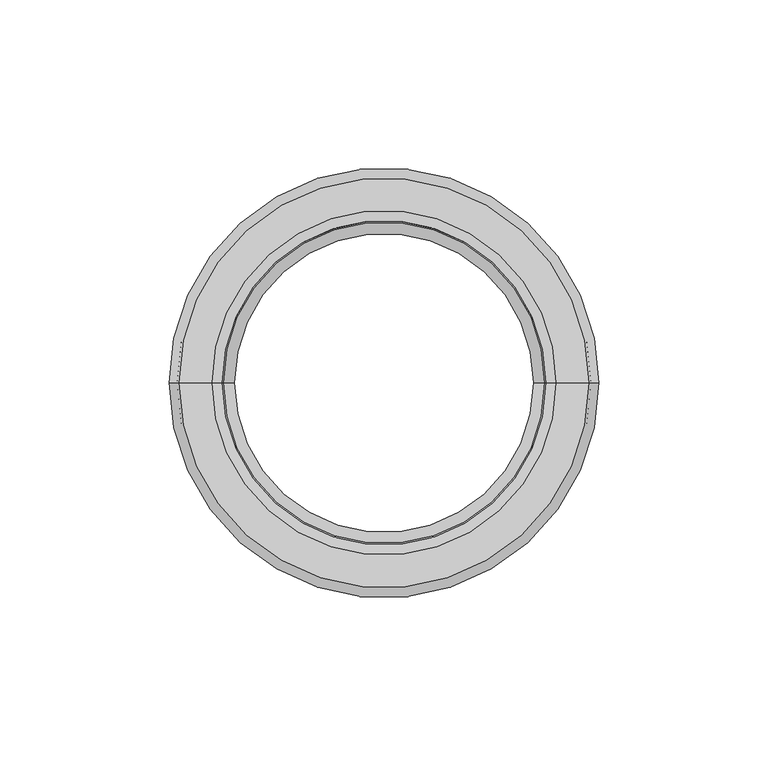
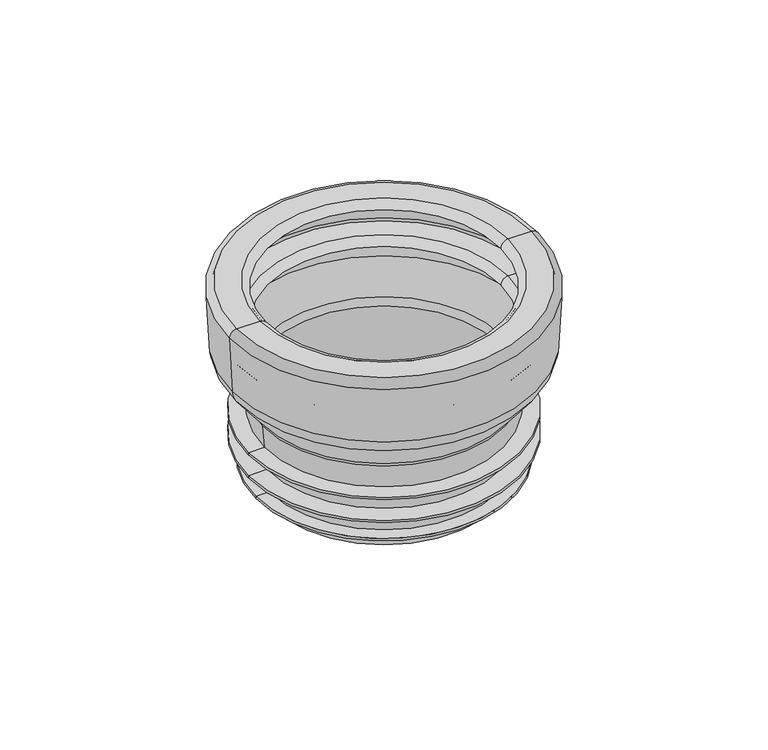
"""IFC4 building model written with IfcOpenShell, lengths in millimetres: sanitary terminal geometry, RSen_52_PIF_UN_closet connector no.6_wisa : closet connector_wisa_no 6 white."""

from ifc_helpers import new_model, si_unit, point, frame, origin, place, context, project, spatial, polyline, circle_curve, ellipse_curve, trimmed, source, transform, mapped, element, save
from ifc_brep_helpers import plane_surface, cylinder_surface, revolved_surface, advanced_brep


def sanitary_terminal_7cce1eda(model_context):
    return source(origin(), model_context, "Body", "AdvancedBrep", [
        advanced_brep(
        [(-51.0, 0.0, 3.0), (51.0, 0.0, 3.0), (60.5886596, 0.0, 3.0), (-60.5886596, 0.0, 3.0), (-48.0, 0.0, 0.0), (48.0, 0.0, 0.0), (-48.9352697, 0.0, 0.0), (48.9352697, 0.0, 0.0), (-51.6046098, 0.0, 2.5331091), (51.6046098, 0.0, 2.5331091), (-59.6978133, 0.0, 2.1089623), (59.6978133, 0.0, 2.1089623), (-61.1172537, 0.0, 0.5325141), (61.1172537, 0.0, 0.5325141), (-60.4477766, 0.0, -12.2418688), (60.4477766, 0.0, -12.2418688), (-59.648873, 0.0, -13.0), (59.648873, 0.0, -13.0), (-51.0, 0.0, -13.0), (51.0, 0.0, -13.0), (-48.0, 0.0, -16.0), (48.0, 0.0, -16.0), (-48.9352697, 0.0, -16.0), (48.9352697, 0.0, -16.0), (-51.6046098, 0.0, -13.4668909), (51.6046098, 0.0, -13.4668909), (-58.1686646, 0.0, -13.8108984), (58.1686646, 0.0, -13.8108984), (-59.582306, 0.0, -15.3809063), (59.582306, 0.0, -15.3809063), (-59.1542114, 0.0, -23.5494383), (59.1542114, 0.0, -23.5494383), (-57.8904987, 0.0, -26.9293915), (57.8904987, 0.0, -26.9293915), (-48.8563405, 0.0, -38.4925866), (48.8563405, 0.0, -38.4925866), (-47.6130407, 0.0, -41.601058), (47.6130407, 0.0, -41.601058), (-44.25, 0.0, -75.9), (44.25, 0.0, -75.9), (-44.25, 0.0, -79.5), (44.25, 0.0, -79.5), (-46.5, 0.0, -79.5), (46.5, 0.0, -79.5), (-47.0883051, 0.0, -73.5), (47.0883051, 0.0, -73.5), (-52.75, 0.0, -73.5), (52.75, 0.0, -73.5), (-52.75, 0.0, -72.5), (52.75, 0.0, -72.5), (-47.186356, 0.0, -72.5), (47.186356, 0.0, -72.5), (-48.0688137, 0.0, -63.5), (48.0688137, 0.0, -63.5), (-55.75, 0.0, -63.5), (55.75, 0.0, -63.5), (-55.75, 0.0, -62.5), (55.75, 0.0, -62.5), (-48.1668646, 0.0, -62.5), (48.1668646, 0.0, -62.5), (-49.0493223, 0.0, -53.5), (49.0493223, 0.0, -53.5), (-55.75, 0.0, -53.5), (55.75, 0.0, -53.5), (-55.75, 0.0, -52.5), (55.75, 0.0, -52.5), (-49.1473731, 0.0, -52.5), (49.1473731, 0.0, -52.5), (-50.0918558, 0.0, -42.8674209), (50.0918558, 0.0, -42.8674209), (-50.7135057, 0.0, -41.3131851), (50.7135057, 0.0, -41.3131851), (-60.4473369, 0.0, -28.8544494), (60.4473369, 0.0, -28.8544494), (-62.3468333, 0.0, -23.7740155), (62.3468333, 0.0, -23.7740155), (-63.5845482, 0.0, -0.1570079), (63.5845482, 0.0, -0.1570079)],
        [
            (0, 1, circle_curve(frame((0.0, 0.0, 3.0), z_axis=(0.0, 0.0, -1.0), x_axis=(1.0, 0.0, 0.0)), 51.0)),
            (1, 2),
            (2, 3, circle_curve(frame((0.0, 0.0, 3.0), z_axis=(0.0, 0.0, 1.0), x_axis=(1.0, 0.0, 0.0)), 60.5886596)),
            (3, 0),
            (1, 0, circle_curve(frame((0.0, 0.0, 3.0), z_axis=(0.0, 0.0, -1.0), x_axis=(1.0, 0.0, 0.0)), 51.0)),
            (3, 2, circle_curve(frame((0.0, 0.0, 3.0), z_axis=(0.0, 0.0, 1.0), x_axis=(1.0, 0.0, 0.0)), 60.5886596)),
            (4, 5, circle_curve(frame((0.0, 0.0, 0.0), z_axis=(0.0, 0.0, -1.0), x_axis=(1.0, 0.0, 0.0)), 48.0)),
            (5, 1, circle_curve(frame((51.0, 0.0, 0.0), z_axis=(0.0, 1.0, 0.0), x_axis=(1.0, 0.0, 0.0)), 3.0)),
            (0, 4, circle_curve(frame((-51.0, 0.0, 0.0), z_axis=(0.0, 1.0, 0.0), x_axis=(-1.0, 0.0, 0.0)), 3.0)),
            (5, 4, circle_curve(frame((0.0, 0.0, 0.0), z_axis=(0.0, 0.0, -1.0), x_axis=(1.0, 0.0, 0.0)), 48.0)),
            (6, 7, circle_curve(frame((0.0, 0.0, 0.0), z_axis=(0.0, 0.0, -1.0), x_axis=(1.0, 0.0, 0.0)), 48.9352697)),
            (7, 5),
            (4, 6),
            (7, 6, circle_curve(frame((0.0, 0.0, 0.0), z_axis=(0.0, 0.0, -1.0), x_axis=(1.0, 0.0, 0.0)), 48.9352697)),
            (8, 9, circle_curve(frame((0.0, 0.0, 2.5331091), z_axis=(0.0, 0.0, -1.0), x_axis=(1.0, 0.0, 0.0)), 51.6046098)),
            (9, 7, circle_curve(frame((51.4718551, 0.0, 0.0), z_axis=(0.0, -1.0, 0.0), x_axis=(1.0, 0.0, 0.0)), 2.5365854)),
            (6, 8, circle_curve(frame((-51.4718551, 0.0, 0.0), z_axis=(0.0, -1.0, 0.0), x_axis=(-1.0, 0.0, 0.0)), 2.5365854)),
            (9, 8, circle_curve(frame((0.0, 0.0, 2.5331091), z_axis=(0.0, 0.0, -1.0), x_axis=(1.0, 0.0, 0.0)), 51.6046098)),
            (10, 11, circle_curve(frame((0.0, 0.0, 2.1089623), z_axis=(0.0, 0.0, -1.0), x_axis=(1.0, 0.0, 0.0)), 59.6978133)),
            (11, 9),
            (8, 10),
            (11, 10, circle_curve(frame((0.0, 0.0, 2.1089623), z_axis=(0.0, 0.0, -1.0), x_axis=(1.0, 0.0, 0.0)), 59.6978133)),
            (12, 13, circle_curve(frame((0.0, 0.0, 0.5325141), z_axis=(0.0, 0.0, -1.0), x_axis=(1.0, 0.0, 0.0)), 61.1172537)),
            (13, 11, circle_curve(frame((59.6193094, 0.0, 0.611018), z_axis=(0.0, -1.0, 0.0), x_axis=(1.0, 0.0, 0.0)), 1.5)),
            (10, 12, circle_curve(frame((-59.6193094, 0.0, 0.611018), z_axis=(0.0, -1.0, 0.0), x_axis=(-1.0, 0.0, 0.0)), 1.5)),
            (13, 12, circle_curve(frame((0.0, 0.0, 0.5325141), z_axis=(0.0, 0.0, -1.0), x_axis=(1.0, 0.0, 0.0)), 61.1172537)),
            (14, 15, circle_curve(frame((0.0, 0.0, -12.2418688), z_axis=(0.0, 0.0, -1.0), x_axis=(1.0, 0.0, 0.0)), 60.4477766)),
            (15, 13),
            (12, 14),
            (15, 14, circle_curve(frame((0.0, 0.0, -12.2418688), z_axis=(0.0, 0.0, -1.0), x_axis=(1.0, 0.0, 0.0)), 60.4477766)),
            (16, 17, circle_curve(frame((0.0, 0.0, -13.0), z_axis=(0.0, 0.0, -1.0), x_axis=(1.0, 0.0, 0.0)), 59.648873)),
            (17, 15, circle_curve(frame((59.648873, 0.0, -12.2), z_axis=(0.0, -1.0, 0.0), x_axis=(1.0, 0.0, 0.0)), 0.8)),
            (14, 16, circle_curve(frame((-59.648873, 0.0, -12.2), z_axis=(0.0, -1.0, 0.0), x_axis=(-1.0, 0.0, 0.0)), 0.8)),
            (17, 16, circle_curve(frame((0.0, 0.0, -13.0), z_axis=(0.0, 0.0, -1.0), x_axis=(1.0, 0.0, 0.0)), 59.648873)),
            (18, 19, circle_curve(frame((0.0, 0.0, -13.0), z_axis=(0.0, 0.0, -1.0), x_axis=(1.0, 0.0, 0.0)), 51.0)),
            (19, 17),
            (16, 18),
            (19, 18, circle_curve(frame((0.0, 0.0, -13.0), z_axis=(0.0, 0.0, -1.0), x_axis=(1.0, 0.0, 0.0)), 51.0)),
            (20, 21, circle_curve(frame((0.0, 0.0, -16.0), z_axis=(0.0, 0.0, -1.0), x_axis=(1.0, 0.0, 0.0)), 48.0)),
            (21, 19, circle_curve(frame((51.0, 0.0, -16.0), z_axis=(0.0, 1.0, 0.0), x_axis=(1.0, 0.0, 0.0)), 3.0)),
            (18, 20, circle_curve(frame((-51.0, 0.0, -16.0), z_axis=(0.0, 1.0, 0.0), x_axis=(-1.0, 0.0, 0.0)), 3.0)),
            (21, 20, circle_curve(frame((0.0, 0.0, -16.0), z_axis=(0.0, 0.0, -1.0), x_axis=(1.0, 0.0, 0.0)), 48.0)),
            (22, 23, circle_curve(frame((0.0, 0.0, -16.0), z_axis=(0.0, 0.0, -1.0), x_axis=(1.0, 0.0, 0.0)), 48.9352697)),
            (23, 21),
            (20, 22),
            (23, 22, circle_curve(frame((0.0, 0.0, -16.0), z_axis=(0.0, 0.0, -1.0), x_axis=(1.0, 0.0, 0.0)), 48.9352697)),
            (24, 25, circle_curve(frame((0.0, 0.0, -13.4668909), z_axis=(0.0, 0.0, -1.0), x_axis=(1.0, 0.0, 0.0)), 51.6046098)),
            (25, 23, circle_curve(frame((51.4718551, 0.0, -16.0), z_axis=(0.0, -1.0, 0.0), x_axis=(1.0, 0.0, 0.0)), 2.5365854)),
            (22, 24, circle_curve(frame((-51.4718551, 0.0, -16.0), z_axis=(0.0, -1.0, 0.0), x_axis=(-1.0, 0.0, 0.0)), 2.5365854)),
            (25, 24, circle_curve(frame((0.0, 0.0, -13.4668909), z_axis=(0.0, 0.0, -1.0), x_axis=(1.0, 0.0, 0.0)), 51.6046098)),
            (26, 27, circle_curve(frame((0.0, 0.0, -13.8108984), z_axis=(0.0, 0.0, -1.0), x_axis=(1.0, 0.0, 0.0)), 58.1686646)),
            (27, 25),
            (24, 26),
            (27, 26, circle_curve(frame((0.0, 0.0, -13.8108984), z_axis=(0.0, 0.0, -1.0), x_axis=(1.0, 0.0, 0.0)), 58.1686646)),
            (28, 29, circle_curve(frame((0.0, 0.0, -15.3809063), z_axis=(0.0, 0.0, -1.0), x_axis=(1.0, 0.0, 0.0)), 59.582306)),
            (29, 27, circle_curve(frame((58.0904814, 0.0, -15.3027231), z_axis=(0.0, -1.0, 0.0), x_axis=(1.0, 0.0, 0.0)), 1.493872)),
            (26, 28, circle_curve(frame((-58.0904814, 0.0, -15.3027231), z_axis=(0.0, -1.0, 0.0), x_axis=(-1.0, 0.0, 0.0)), 1.493872)),
            (29, 28, circle_curve(frame((0.0, 0.0, -15.3809063), z_axis=(0.0, 0.0, -1.0), x_axis=(1.0, 0.0, 0.0)), 59.582306)),
            (30, 31, circle_curve(frame((0.0, 0.0, -23.5494383), z_axis=(0.0, 0.0, -1.0), x_axis=(1.0, 0.0, 0.0)), 59.1542114)),
            (31, 29),
            (28, 30),
            (31, 30, circle_curve(frame((0.0, 0.0, -23.5494383), z_axis=(0.0, 0.0, -1.0), x_axis=(1.0, 0.0, 0.0)), 59.1542114)),
            (32, 33, circle_curve(frame((0.0, 0.0, -26.9293915), z_axis=(0.0, 0.0, -1.0), x_axis=(1.0, 0.0, 0.0)), 57.8904987)),
            (33, 31, circle_curve(frame((53.1624342, 0.0, -23.2354226), z_axis=(0.0, -1.0, 0.0), x_axis=(1.0, 0.0, 0.0)), 6.0)),
            (30, 32, circle_curve(frame((-53.1624342, 0.0, -23.2354226), z_axis=(0.0, -1.0, 0.0), x_axis=(-1.0, 0.0, 0.0)), 6.0)),
            (33, 32, circle_curve(frame((0.0, 0.0, -26.9293915), z_axis=(0.0, 0.0, -1.0), x_axis=(1.0, 0.0, 0.0)), 57.8904987)),
            (34, 35, circle_curve(frame((0.0, 0.0, -38.4925866), z_axis=(0.0, 0.0, -1.0), x_axis=(1.0, 0.0, 0.0)), 48.8563405)),
            (35, 33),
            (32, 34),
            (35, 34, circle_curve(frame((0.0, 0.0, -38.4925866), z_axis=(0.0, 0.0, -1.0), x_axis=(1.0, 0.0, 0.0)), 48.8563405)),
            (36, 37, circle_curve(frame((0.0, 0.0, -41.601058), z_axis=(0.0, 0.0, -1.0), x_axis=(1.0, 0.0, 0.0)), 47.6130407)),
            (37, 35, circle_curve(frame((53.5844051, 0.0, -42.1865554), z_axis=(0.0, 1.0, 0.0), x_axis=(1.0, 0.0, 0.0)), 6.0)),
            (34, 36, circle_curve(frame((-53.5844051, 0.0, -42.1865554), z_axis=(0.0, 1.0, 0.0), x_axis=(-1.0, 0.0, 0.0)), 6.0)),
            (37, 36, circle_curve(frame((0.0, 0.0, -41.601058), z_axis=(0.0, 0.0, -1.0), x_axis=(1.0, 0.0, 0.0)), 47.6130407)),
            (38, 39, circle_curve(frame((0.0, 0.0, -75.9), z_axis=(0.0, 0.0, -1.0), x_axis=(1.0, 0.0, 0.0)), 44.25)),
            (39, 37),
            (36, 38),
            (39, 38, circle_curve(frame((0.0, 0.0, -75.9), z_axis=(0.0, 0.0, -1.0), x_axis=(1.0, 0.0, 0.0)), 44.25)),
            (40, 41, circle_curve(frame((0.0, 0.0, -79.5), z_axis=(0.0, 0.0, -1.0), x_axis=(1.0, 0.0, 0.0)), 44.25)),
            (41, 39),
            (38, 40),
            (41, 40, circle_curve(frame((0.0, 0.0, -79.5), z_axis=(0.0, 0.0, -1.0), x_axis=(1.0, 0.0, 0.0)), 44.25)),
            (42, 43, circle_curve(frame((0.0, 0.0, -79.5), z_axis=(0.0, 0.0, -1.0), x_axis=(1.0, 0.0, 0.0)), 46.5)),
            (43, 41),
            (40, 42),
            (43, 42, circle_curve(frame((0.0, 0.0, -79.5), z_axis=(0.0, 0.0, -1.0), x_axis=(1.0, 0.0, 0.0)), 46.5)),
            (44, 45, circle_curve(frame((0.0, 0.0, -73.5), z_axis=(0.0, 0.0, -1.0), x_axis=(1.0, 0.0, 0.0)), 47.0883051)),
            (45, 43),
            (42, 44),
            (45, 44, circle_curve(frame((0.0, 0.0, -73.5), z_axis=(0.0, 0.0, -1.0), x_axis=(1.0, 0.0, 0.0)), 47.0883051)),
            (46, 47, circle_curve(frame((0.0, 0.0, -73.5), z_axis=(0.0, 0.0, -1.0), x_axis=(1.0, 0.0, 0.0)), 52.75)),
            (47, 45),
            (44, 46),
            (47, 46, circle_curve(frame((0.0, 0.0, -73.5), z_axis=(0.0, 0.0, -1.0), x_axis=(1.0, 0.0, 0.0)), 52.75)),
            (48, 49, circle_curve(frame((0.0, 0.0, -72.5), z_axis=(0.0, 0.0, -1.0), x_axis=(1.0, 0.0, 0.0)), 52.75)),
            (49, 47),
            (46, 48),
            (49, 48, circle_curve(frame((0.0, 0.0, -72.5), z_axis=(0.0, 0.0, -1.0), x_axis=(1.0, 0.0, 0.0)), 52.75)),
            (50, 51, circle_curve(frame((0.0, 0.0, -72.5), z_axis=(0.0, 0.0, -1.0), x_axis=(1.0, 0.0, 0.0)), 47.186356)),
            (51, 49),
            (48, 50),
            (51, 50, circle_curve(frame((0.0, 0.0, -72.5), z_axis=(0.0, 0.0, -1.0), x_axis=(1.0, 0.0, 0.0)), 47.186356)),
            (52, 53, circle_curve(frame((0.0, 0.0, -63.5), z_axis=(0.0, 0.0, -1.0), x_axis=(1.0, 0.0, 0.0)), 48.0688137)),
            (53, 51),
            (50, 52),
            (53, 52, circle_curve(frame((0.0, 0.0, -63.5), z_axis=(0.0, 0.0, -1.0), x_axis=(1.0, 0.0, 0.0)), 48.0688137)),
            (54, 55, circle_curve(frame((0.0, 0.0, -63.5), z_axis=(0.0, 0.0, -1.0), x_axis=(1.0, 0.0, 0.0)), 55.75)),
            (55, 53),
            (52, 54),
            (55, 54, circle_curve(frame((0.0, 0.0, -63.5), z_axis=(0.0, 0.0, -1.0), x_axis=(1.0, 0.0, 0.0)), 55.75)),
            (56, 57, circle_curve(frame((0.0, 0.0, -62.5), z_axis=(0.0, 0.0, -1.0), x_axis=(1.0, 0.0, 0.0)), 55.75)),
            (57, 55),
            (54, 56),
            (57, 56, circle_curve(frame((0.0, 0.0, -62.5), z_axis=(0.0, 0.0, -1.0), x_axis=(1.0, 0.0, 0.0)), 55.75)),
            (58, 59, circle_curve(frame((0.0, 0.0, -62.5), z_axis=(0.0, 0.0, -1.0), x_axis=(1.0, 0.0, 0.0)), 48.1668646)),
            (59, 57),
            (56, 58),
            (59, 58, circle_curve(frame((0.0, 0.0, -62.5), z_axis=(0.0, 0.0, -1.0), x_axis=(1.0, 0.0, 0.0)), 48.1668646)),
            (60, 61, circle_curve(frame((0.0, 0.0, -53.5), z_axis=(0.0, 0.0, -1.0), x_axis=(1.0, 0.0, 0.0)), 49.0493223)),
            (61, 59),
            (58, 60),
            (61, 60, circle_curve(frame((0.0, 0.0, -53.5), z_axis=(0.0, 0.0, -1.0), x_axis=(1.0, 0.0, 0.0)), 49.0493223)),
            (62, 63, circle_curve(frame((0.0, 0.0, -53.5), z_axis=(0.0, 0.0, -1.0), x_axis=(1.0, 0.0, 0.0)), 55.75)),
            (63, 61),
            (60, 62),
            (63, 62, circle_curve(frame((0.0, 0.0, -53.5), z_axis=(0.0, 0.0, -1.0), x_axis=(1.0, 0.0, 0.0)), 55.75)),
            (64, 65, circle_curve(frame((0.0, 0.0, -52.5), z_axis=(0.0, 0.0, -1.0), x_axis=(1.0, 0.0, 0.0)), 55.75)),
            (65, 63),
            (62, 64),
            (65, 64, circle_curve(frame((0.0, 0.0, -52.5), z_axis=(0.0, 0.0, -1.0), x_axis=(1.0, 0.0, 0.0)), 55.75)),
            (66, 67, circle_curve(frame((0.0, 0.0, -52.5), z_axis=(0.0, 0.0, -1.0), x_axis=(1.0, 0.0, 0.0)), 49.1473731)),
            (67, 65),
            (64, 66),
            (67, 66, circle_curve(frame((0.0, 0.0, -52.5), z_axis=(0.0, 0.0, -1.0), x_axis=(1.0, 0.0, 0.0)), 49.1473731)),
            (68, 69, circle_curve(frame((0.0, 0.0, -42.8674209), z_axis=(0.0, 0.0, -1.0), x_axis=(1.0, 0.0, 0.0)), 50.0918558)),
            (69, 67),
            (66, 68),
            (69, 68, circle_curve(frame((0.0, 0.0, -42.8674209), z_axis=(0.0, 0.0, -1.0), x_axis=(1.0, 0.0, 0.0)), 50.0918558)),
            (70, 71, circle_curve(frame((0.0, 0.0, -41.3131851), z_axis=(0.0, 0.0, -1.0), x_axis=(1.0, 0.0, 0.0)), 50.7135057)),
            (71, 69, circle_curve(frame((53.077538, 0.0, -43.1601696), z_axis=(0.0, -1.0, 0.0), x_axis=(1.0, 0.0, 0.0)), 3.0)),
            (68, 70, circle_curve(frame((-53.077538, 0.0, -43.1601696), z_axis=(0.0, -1.0, 0.0), x_axis=(-1.0, 0.0, 0.0)), 3.0)),
            (71, 70, circle_curve(frame((0.0, 0.0, -41.3131851), z_axis=(0.0, 0.0, -1.0), x_axis=(1.0, 0.0, 0.0)), 50.7135057)),
            (72, 73, circle_curve(frame((0.0, 0.0, -28.8544494), z_axis=(0.0, 0.0, -1.0), x_axis=(1.0, 0.0, 0.0)), 60.4473369)),
            (73, 71),
            (70, 72),
            (73, 72, circle_curve(frame((0.0, 0.0, -28.8544494), z_axis=(0.0, 0.0, -1.0), x_axis=(1.0, 0.0, 0.0)), 60.4473369)),
            (74, 75, circle_curve(frame((0.0, 0.0, -23.7740155), z_axis=(0.0, 0.0, -1.0), x_axis=(1.0, 0.0, 0.0)), 62.3468333)),
            (75, 73, circle_curve(frame((53.3405462, 0.0, -23.302016), z_axis=(0.0, 1.0, 0.0), x_axis=(1.0, 0.0, 0.0)), 9.0186468)),
            (72, 74, circle_curve(frame((-53.3405462, 0.0, -23.302016), z_axis=(0.0, 1.0, 0.0), x_axis=(-1.0, 0.0, 0.0)), 9.0186468)),
            (75, 74, circle_curve(frame((0.0, 0.0, -23.7740155), z_axis=(0.0, 0.0, -1.0), x_axis=(1.0, 0.0, 0.0)), 62.3468333)),
            (76, 77, circle_curve(frame((0.0, 0.0, -0.1570079), z_axis=(0.0, 0.0, -1.0), x_axis=(1.0, 0.0, 0.0)), 63.5845482)),
            (77, 75),
            (74, 76),
            (77, 76, circle_curve(frame((0.0, 0.0, -0.1570079), z_axis=(0.0, 0.0, -1.0), x_axis=(1.0, 0.0, 0.0)), 63.5845482)),
            (2, 77, circle_curve(frame((60.5886596, 0.0, 0.0), z_axis=(0.0, 1.0, 0.0), x_axis=(1.0, 0.0, 0.0)), 3.0)),
            (76, 3, circle_curve(frame((-60.5886596, 0.0, 0.0), z_axis=(0.0, 1.0, 0.0), x_axis=(-1.0, 0.0, 0.0)), 3.0)),
        ],
        [
            plane_surface(frame((0.0, 0.0, 3.0), z_axis=(0.0, 0.0, 1.0), x_axis=(1.0, 0.0, 0.0))),
            revolved_surface(trimmed(ellipse_curve(frame((51.0, 0.0, 0.0), z_axis=(0.0, -1.0, 0.0), x_axis=(1.0, 0.0, 0.0)), 3.0, 3.0), [point((51.0, 0.0, 3.0))], [point((48.0, 0.0, 0.0))], True, "CARTESIAN"), (0.0, 0.0, 3.0), (0.0, 0.0, 1.0)),
            plane_surface(frame((0.0, 0.0, 0.0), z_axis=(0.0, 0.0, -1.0), x_axis=(1.0, 0.0, 0.0))),
            revolved_surface(trimmed(ellipse_curve(frame((51.4718551, 0.0, 0.0), z_axis=(0.0, 1.0, 0.0), x_axis=(1.0, 0.0, 0.0)), 2.5365854, 2.5365854), [point((48.9352697, 0.0, 0.0))], [point((51.6046098, 0.0, 2.5331091))], True, "CARTESIAN"), (0.0, 0.0, 3.0), (0.0, 0.0, 1.0)),
            revolved_surface(polyline([(51.6046098, 0.0, 2.5331091), (59.6978133, 0.0, 2.1089623)]), (0.0, 0.0, 3.0), (0.0, 0.0, 1.0)),
            revolved_surface(trimmed(ellipse_curve(frame((59.6193094, 0.0, 0.611018), z_axis=(0.0, 1.0, 0.0), x_axis=(1.0, 0.0, 0.0)), 1.5, 1.5), [point((59.6978133, 0.0, 2.1089623))], [point((61.1172537, 0.0, 0.5325141))], True, "CARTESIAN"), (0.0, 0.0, 3.0), (0.0, 0.0, 1.0)),
            revolved_surface(polyline([(61.1172537, 0.0, 0.5325141), (60.4477766, 0.0, -12.2418688)]), (0.0, 0.0, 3.0), (0.0, 0.0, 1.0)),
            revolved_surface(trimmed(ellipse_curve(frame((59.648873, 0.0, -12.2), z_axis=(0.0, 1.0, 0.0), x_axis=(1.0, 0.0, 0.0)), 0.8, 0.8), [point((60.4477766, 0.0, -12.2418688))], [point((59.648873, 0.0, -13.0))], True, "CARTESIAN"), (0.0, 0.0, 3.0), (0.0, 0.0, 1.0)),
            plane_surface(frame((0.0, 0.0, -13.0), z_axis=(0.0, 0.0, 1.0), x_axis=(1.0, 0.0, 0.0))),
            revolved_surface(trimmed(ellipse_curve(frame((51.0, 0.0, -16.0), z_axis=(0.0, -1.0, 0.0), x_axis=(1.0, 0.0, 0.0)), 3.0, 3.0), [point((51.0, 0.0, -13.0))], [point((48.0, 0.0, -16.0))], True, "CARTESIAN"), (0.0, 0.0, 3.0), (0.0, 0.0, 1.0)),
            plane_surface(frame((0.0, 0.0, -16.0), z_axis=(0.0, 0.0, -1.0), x_axis=(1.0, 0.0, 0.0))),
            revolved_surface(trimmed(ellipse_curve(frame((51.4718551, 0.0, -16.0), z_axis=(0.0, 1.0, 0.0), x_axis=(1.0, 0.0, 0.0)), 2.5365854, 2.5365854), [point((48.9352697, 0.0, -16.0))], [point((51.6046098, 0.0, -13.4668909))], True, "CARTESIAN"), (0.0, 0.0, 3.0), (0.0, 0.0, 1.0)),
            revolved_surface(polyline([(51.6046098, 0.0, -13.4668909), (58.1686646, 0.0, -13.8108984)]), (0.0, 0.0, 3.0), (0.0, 0.0, 1.0)),
            revolved_surface(trimmed(ellipse_curve(frame((58.0904814, 0.0, -15.3027231), z_axis=(0.0, 1.0, 0.0), x_axis=(1.0, 0.0, 0.0)), 1.493872, 1.493872), [point((58.1686646, 0.0, -13.8108984))], [point((59.582306, 0.0, -15.3809063))], True, "CARTESIAN"), (0.0, 0.0, 3.0), (0.0, 0.0, 1.0)),
            revolved_surface(polyline([(59.582306, 0.0, -15.3809063), (59.1542114, 0.0, -23.5494383)]), (0.0, 0.0, 3.0), (0.0, 0.0, 1.0)),
            revolved_surface(trimmed(ellipse_curve(frame((53.1624342, 0.0, -23.2354226), z_axis=(0.0, 1.0, 0.0), x_axis=(1.0, 0.0, 0.0)), 6.0, 6.0), [point((59.1542114, 0.0, -23.5494383))], [point((57.8904987, 0.0, -26.9293915))], True, "CARTESIAN"), (0.0, 0.0, 3.0), (0.0, 0.0, 1.0)),
            revolved_surface(polyline([(57.8904987, 0.0, -26.9293915), (48.8563405, 0.0, -38.4925866)]), (0.0, 0.0, 3.0), (0.0, 0.0, 1.0)),
            revolved_surface(trimmed(ellipse_curve(frame((53.5844051, 0.0, -42.1865554), z_axis=(0.0, -1.0, 0.0), x_axis=(1.0, 0.0, 0.0)), 6.0, 6.0), [point((48.8563405, 0.0, -38.4925866))], [point((47.6130407, 0.0, -41.601058))], True, "CARTESIAN"), (0.0, 0.0, 3.0), (0.0, 0.0, 1.0)),
            revolved_surface(polyline([(47.6130407, 0.0, -41.601058), (44.25, 0.0, -75.9)]), (0.0, 0.0, 3.0), (0.0, 0.0, 1.0)),
            revolved_surface(polyline([(44.25, 0.0, -75.9), (44.25, 0.0, -79.5)]), (0.0, 0.0, 3.0), (0.0, 0.0, 1.0)),
            plane_surface(frame((0.0, 0.0, -79.5), z_axis=(0.0, 0.0, -1.0), x_axis=(1.0, 0.0, 0.0))),
            revolved_surface(polyline([(46.5, 0.0, -79.5), (47.0883051, 0.0, -73.5)]), (0.0, 0.0, 3.0), (0.0, 0.0, 1.0)),
            plane_surface(frame((0.0, 0.0, -73.5), z_axis=(0.0, 0.0, -1.0), x_axis=(1.0, 0.0, 0.0))),
            cylinder_surface(frame((0.0, 0.0, 3.0), z_axis=(0.0, 0.0, 1.0), x_axis=(1.0, 0.0, 0.0)), 52.75),
            plane_surface(frame((0.0, 0.0, -72.5), z_axis=(0.0, 0.0, 1.0), x_axis=(1.0, 0.0, 0.0))),
            revolved_surface(polyline([(47.186356, 0.0, -72.5), (48.0688137, 0.0, -63.5)]), (0.0, 0.0, 3.0), (0.0, 0.0, 1.0)),
            plane_surface(frame((0.0, 0.0, -63.5), z_axis=(0.0, 0.0, -1.0), x_axis=(1.0, 0.0, 0.0))),
            cylinder_surface(frame((0.0, 0.0, 3.0), z_axis=(0.0, 0.0, 1.0), x_axis=(1.0, 0.0, 0.0)), 55.75),
            plane_surface(frame((0.0, 0.0, -62.5), z_axis=(0.0, 0.0, 1.0), x_axis=(1.0, 0.0, 0.0))),
            revolved_surface(polyline([(48.1668646, 0.0, -62.5), (49.0493223, 0.0, -53.5)]), (0.0, 0.0, 3.0), (0.0, 0.0, 1.0)),
            plane_surface(frame((0.0, 0.0, -53.5), z_axis=(0.0, 0.0, -1.0), x_axis=(1.0, 0.0, 0.0))),
            plane_surface(frame((0.0, 0.0, -52.5), z_axis=(0.0, 0.0, 1.0), x_axis=(1.0, 0.0, 0.0))),
            revolved_surface(polyline([(49.1473731, 0.0, -52.5), (50.0918558, 0.0, -42.8674209)]), (0.0, 0.0, 3.0), (0.0, 0.0, 1.0)),
            revolved_surface(trimmed(ellipse_curve(frame((53.077538, 0.0, -43.1601696), z_axis=(0.0, 1.0, 0.0), x_axis=(1.0, 0.0, 0.0)), 3.0, 3.0), [point((50.0918558, 0.0, -42.8674209))], [point((50.7135057, 0.0, -41.3131851))], True, "CARTESIAN"), (0.0, 0.0, 3.0), (0.0, 0.0, 1.0)),
            revolved_surface(polyline([(50.7135057, 0.0, -41.3131851), (60.4473369, 0.0, -28.8544494)]), (0.0, 0.0, 3.0), (0.0, 0.0, 1.0)),
            revolved_surface(trimmed(ellipse_curve(frame((53.3405462, 0.0, -23.302016), z_axis=(0.0, -1.0, 0.0), x_axis=(1.0, 0.0, 0.0)), 9.0186468, 9.0186468), [point((60.4473369, 0.0, -28.8544494))], [point((62.3468333, 0.0, -23.7740155))], True, "CARTESIAN"), (0.0, 0.0, 3.0), (0.0, 0.0, 1.0)),
            revolved_surface(polyline([(62.3468333, 0.0, -23.7740155), (63.5845482, 0.0, -0.1570079)]), (0.0, 0.0, 3.0), (0.0, 0.0, 1.0)),
            revolved_surface(trimmed(ellipse_curve(frame((60.5886596, 0.0, 0.0), z_axis=(0.0, -1.0, 0.0), x_axis=(1.0, 0.0, 0.0)), 3.0, 3.0), [point((63.5845482, 0.0, -0.1570079))], [point((60.5886596, 0.0, 3.0))], True, "CARTESIAN"), (0.0, 0.0, 3.0), (0.0, 0.0, 1.0)),
        ],
        [
            (0, [[1, 2, 3, 4]]),
            (0, [[5, -4, 6, -2]]),
            (1, [[7, 8, -1, 9]]),
            (1, [[10, -9, -5, -8]]),
            (2, [[11, 12, -7, 13]]),
            (2, [[14, -13, -10, -12]]),
            (3, [[15, 16, -11, 17]]),
            (3, [[18, -17, -14, -16]]),
            (4, [[19, 20, -15, 21]]),
            (4, [[22, -21, -18, -20]]),
            (5, [[23, 24, -19, 25]]),
            (5, [[26, -25, -22, -24]]),
            (6, [[27, 28, -23, 29]]),
            (6, [[30, -29, -26, -28]]),
            (7, [[31, 32, -27, 33]]),
            (7, [[34, -33, -30, -32]]),
            (8, [[35, 36, -31, 37]]),
            (8, [[38, -37, -34, -36]]),
            (9, [[39, 40, -35, 41]]),
            (9, [[42, -41, -38, -40]]),
            (10, [[43, 44, -39, 45]]),
            (10, [[46, -45, -42, -44]]),
            (11, [[47, 48, -43, 49]]),
            (11, [[50, -49, -46, -48]]),
            (12, [[51, 52, -47, 53]]),
            (12, [[54, -53, -50, -52]]),
            (13, [[55, 56, -51, 57]]),
            (13, [[58, -57, -54, -56]]),
            (14, [[59, 60, -55, 61]]),
            (14, [[62, -61, -58, -60]]),
            (15, [[63, 64, -59, 65]]),
            (15, [[66, -65, -62, -64]]),
            (16, [[67, 68, -63, 69]]),
            (16, [[70, -69, -66, -68]]),
            (17, [[71, 72, -67, 73]]),
            (17, [[74, -73, -70, -72]]),
            (18, [[75, 76, -71, 77]]),
            (18, [[78, -77, -74, -76]]),
            (19, [[79, 80, -75, 81]]),
            (19, [[82, -81, -78, -80]]),
            (20, [[83, 84, -79, 85]]),
            (20, [[86, -85, -82, -84]]),
            (21, [[87, 88, -83, 89]]),
            (21, [[90, -89, -86, -88]]),
            (22, [[91, 92, -87, 93]]),
            (22, [[94, -93, -90, -92]]),
            (23, [[95, 96, -91, 97]]),
            (23, [[98, -97, -94, -96]]),
            (24, [[99, 100, -95, 101]]),
            (24, [[102, -101, -98, -100]]),
            (25, [[103, 104, -99, 105]]),
            (25, [[106, -105, -102, -104]]),
            (26, [[107, 108, -103, 109]]),
            (26, [[110, -109, -106, -108]]),
            (27, [[111, 112, -107, 113]]),
            (27, [[114, -113, -110, -112]]),
            (28, [[115, 116, -111, 117]]),
            (28, [[118, -117, -114, -116]]),
            (29, [[119, 120, -115, 121]]),
            (29, [[122, -121, -118, -120]]),
            (30, [[123, 124, -119, 125]]),
            (30, [[126, -125, -122, -124]]),
            (27, [[127, 128, -123, 129]]),
            (27, [[130, -129, -126, -128]]),
            (31, [[131, 132, -127, 133]]),
            (31, [[134, -133, -130, -132]]),
            (32, [[135, 136, -131, 137]]),
            (32, [[138, -137, -134, -136]]),
            (33, [[139, 140, -135, 141]]),
            (33, [[142, -141, -138, -140]]),
            (34, [[143, 144, -139, 145]]),
            (34, [[146, -145, -142, -144]]),
            (35, [[147, 148, -143, 149]]),
            (35, [[150, -149, -146, -148]]),
            (36, [[151, 152, -147, 153]]),
            (36, [[154, -153, -150, -152]]),
            (37, [[-3, 155, -151, 156]]),
            (37, [[-6, -156, -154, -155]]),
        ],
    ),
    ])


if __name__ == "__main__":
    model = new_model("IFC4")
    model_context = context("Model", 3, world=origin())
    ifc_project = project(units=[si_unit("LENGTHUNIT", "METRE", prefix="MILLI")], contexts=[model_context])
    site = spatial("IfcSite", under=ifc_project)
    building = spatial("IfcBuilding", under=site)
    placement = place(None, origin())
    sanitary_terminal_shape = sanitary_terminal_7cce1eda(model_context)
    element("IfcSanitaryTerminal", 1, ObjectType="RSen_52_PIF_UN_closet connector no.6_wisa : closet connector_wisa_no 6 white", at=placement, inside=building, context=model_context, shape_type="MappedRepresentation", body=[
        mapped(sanitary_terminal_shape, transform((0.0, 0.0, 0.0), x_axis=(1.0, 0.0, 0.0), y_axis=(0.0, 1.0, 0.0), z_axis=(0.0, 0.0, 1.0))),
    ])
    save(model, "model.ifc")
